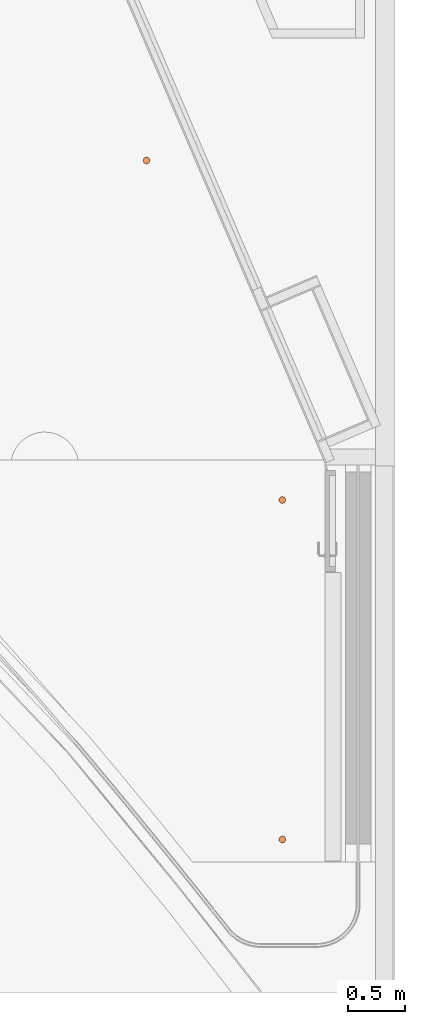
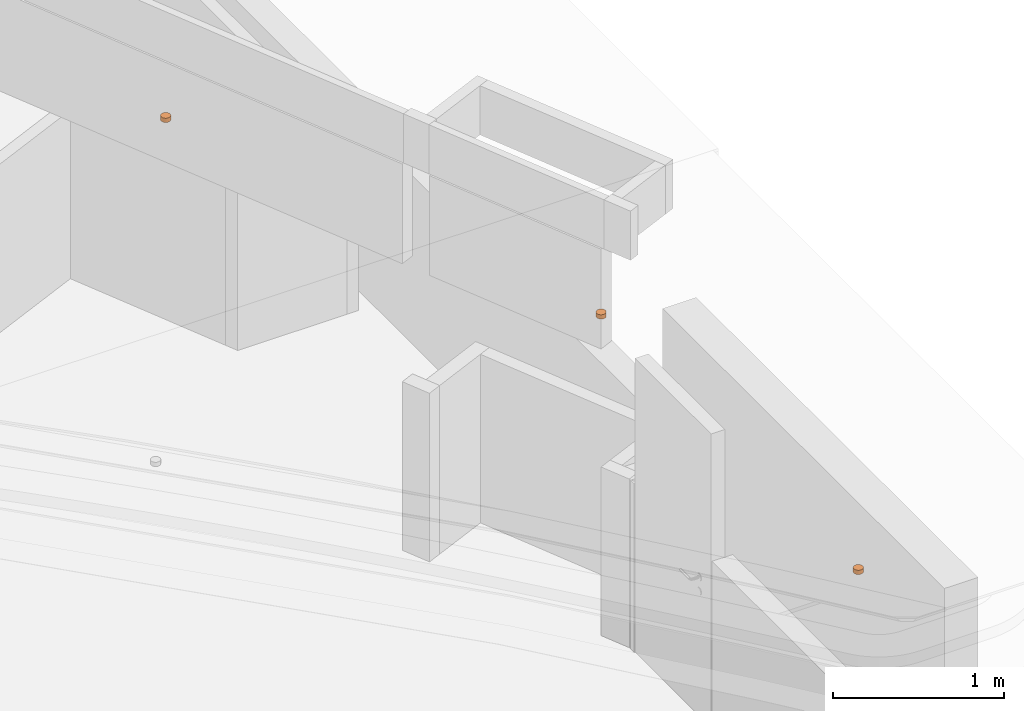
# One storey, part 14 of 16: 3 proxies.
"""IFC2X3 building model written with IfcOpenShell, lengths in millimetres."""

from ifc_helpers import new_model, entity, si_unit, converted_unit, derived_unit, direction, frame, frame_2d, origin, origin_with_axes, place, context, subcontext, project, spatial, circle, extrude, source, transform, mapped, material, type_object, element, save


model = new_model("IFC2X3")

# Units and contexts
model_context = context("Model", 3, precision=0.01, world=frame((0.0, 4.29681676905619e-09, 0.0)), true_north=direction((4.01073788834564e-13, 1.0)))
plan_context = context("Plan", 3, precision=0.01, world=frame((0.0, 4.29681676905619e-09, 0.0)), true_north=direction((4.01073788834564e-13, 1.0)))
body_context = subcontext(model_context, "Body", "Model", "MODEL_VIEW")
ifc_project = project(units=[converted_unit("PLANEANGLEUNIT", "DEGREE", entity("IfcPositiveLengthMeasure", 0.0174532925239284), si_unit("PLANEANGLEUNIT", "RADIAN"), dimensions=[0, 0, 0, 0, 0, 0, 0]), si_unit("AREAUNIT", "SQUARE_METRE"), si_unit("LENGTHUNIT", "METRE", prefix="MILLI"), si_unit("MASSUNIT", "GRAM", prefix="KILO"), si_unit("POWERUNIT", "WATT"), si_unit("PRESSUREUNIT", "PASCAL"), si_unit("FORCEUNIT", "NEWTON", prefix="KILO"), si_unit("ELECTRICCURRENTUNIT", "AMPERE"), si_unit("THERMODYNAMICTEMPERATUREUNIT", "DEGREE_CELSIUS"), si_unit("TIMEUNIT", "SECOND"), si_unit("VOLUMEUNIT", "CUBIC_METRE"), derived_unit("LINEARVELOCITYUNIT", [(si_unit("LENGTHUNIT", "METRE"), 1), (si_unit("TIMEUNIT", "SECOND"), -1)]), derived_unit("VOLUMETRICFLOWRATEUNIT", [(si_unit("VOLUMEUNIT", "CUBIC_METRE"), 1), (si_unit("TIMEUNIT", "SECOND"), -1)]), derived_unit("THERMALTRANSMITTANCEUNIT", [(si_unit("POWERUNIT", "WATT"), 1), (si_unit("THERMODYNAMICTEMPERATUREUNIT", "KELVIN"), -1), (si_unit("AREAUNIT", "SQUARE_METRE"), -1)])], contexts=[model_context, plan_context])

# Site, building, storey
site_placement = place(None, origin_with_axes())
site = spatial("IfcSite", under=ifc_project, at=site_placement, Name="ENGM", CompositionType="ELEMENT")
building_placement = place(site_placement, origin_with_axes())
building = spatial("IfcBuilding", under=site, at=building_placement, Name="TS", CompositionType="ELEMENT")
storey_placement = place(building_placement, frame((0.0, 0.0, 204000.0), z_axis=(0.0, 0.0, 1.0), x_axis=(1.0, 0.0, 0.0)))
storey = spatial("IfcBuildingStorey", under=building, at=storey_placement, Name="Nivå D", CompositionType="ELEMENT", Elevation=204000.0)

# Proxies
ifc_material = material(Name="<Unnamed>")
building_element_proxy_type = type_object("IfcBuildingElementProxyType", Name="V333 - Sprinkelhode:V333 - Sprinkelhode", PredefinedType="NOTDEFINED", material=ifc_material)
shared_shape = source(origin(), body_context, "Body", "SweptSolid", [
    extrude(circle(Radius=30.0, at=frame_2d((-6.55042322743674e-16, -4.84663372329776e-14), x_axis=(1.0, 0.0))), frame((0.0, 0.0, 2418.4)), (0.0, 0.0, 1.0), 29.9999999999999),
])
for number, where, z_axis, x_axis, name in (
    (1, (531100.000000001, 405199.999999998, 271.600000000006), (0.0, 0.0, 1.0), (1.0, 0.0, 0.0), "V333 - Sprinkelhode:V333 - Sprinkelhode"),
    (2, (529900.000000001, 408199.999999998, 271.600000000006), (0.0, 0.0, 1.0), (1.0, 0.0, 0.0), "V333 - Sprinkelhode:V333 - Sprinkelhode"),
    (3, (531100.000000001, 402199.999999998, 271.600000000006), (0.0, 0.0, 1.0), (1.0, 0.0, 0.0), "V333 - Sprinkelhode:V333 - Sprinkelhode"),
):
    element("IfcBuildingElementProxy", number, at=place(storey_placement, frame(where, z_axis=z_axis, x_axis=x_axis)), inside=storey, type_object=building_element_proxy_type, material=ifc_material, Name=name, ObjectType="V333 - Sprinkelhode:V333 - Sprinkelhode", context=body_context, shape_type="MappedRepresentation", body=[
        mapped(shared_shape, transform((0.0, 0.0, 0.0), scale=1.0)),
    ])

save(model, "model.ifc")
